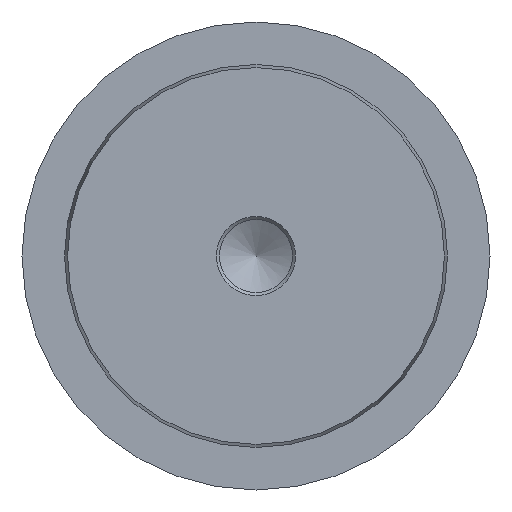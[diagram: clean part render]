
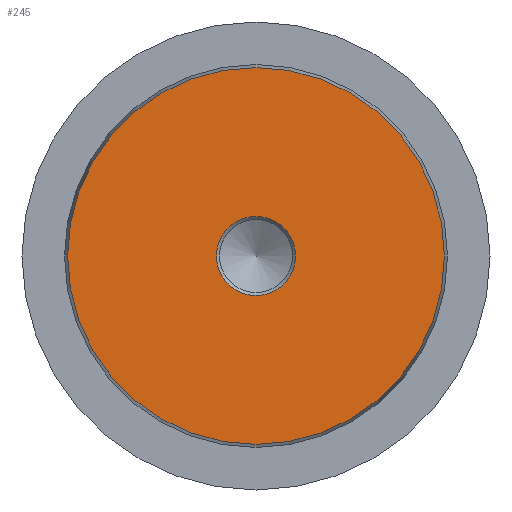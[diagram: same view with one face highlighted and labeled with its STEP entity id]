
A CAD part, left-side view. The second image highlights one B-rep face of the part: STEP entity #245.
In plain terms, the highlighted planar face has unit normal (-1, 0, 0).
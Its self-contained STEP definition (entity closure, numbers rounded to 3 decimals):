
#14=FACE_BOUND('',#81,.T.);
#24=PLANE('',#290);
#63=FACE_OUTER_BOUND('',#80,.T.);
#80=EDGE_LOOP('',(#182));
#81=EDGE_LOOP('',(#183));
#101=CIRCLE('',#289,6.5);
#102=CIRCLE('',#291,31.);
#119=VERTEX_POINT('',#419);
#120=VERTEX_POINT('',#423);
#141=EDGE_CURVE('',#119,#119,#101,.T.);
#142=EDGE_CURVE('',#120,#120,#102,.T.);
#182=ORIENTED_EDGE('',*,*,#142,.F.);
#183=ORIENTED_EDGE('',*,*,#141,.T.);
#245=ADVANCED_FACE('',(#63,#14),#24,.T.);
#289=AXIS2_PLACEMENT_3D('',#421,#343,#344);
#290=AXIS2_PLACEMENT_3D('',#422,#345,#346);
#291=AXIS2_PLACEMENT_3D('',#424,#347,#348);
#343=DIRECTION('center_axis',(1.,0.,0.));
#344=DIRECTION('ref_axis',(0.,0.,-1.));
#345=DIRECTION('center_axis',(-1.,0.,0.));
#346=DIRECTION('ref_axis',(0.,0.,1.));
#347=DIRECTION('center_axis',(1.,0.,0.));
#348=DIRECTION('ref_axis',(0.,0.,-1.));
#419=CARTESIAN_POINT('',(0.,-6.5,0.));
#421=CARTESIAN_POINT('Origin',(0.,0.,0.));
#422=CARTESIAN_POINT('Origin',(0.,31.,0.));
#423=CARTESIAN_POINT('',(0.,-31.,0.));
#424=CARTESIAN_POINT('Origin',(0.,0.,0.));
